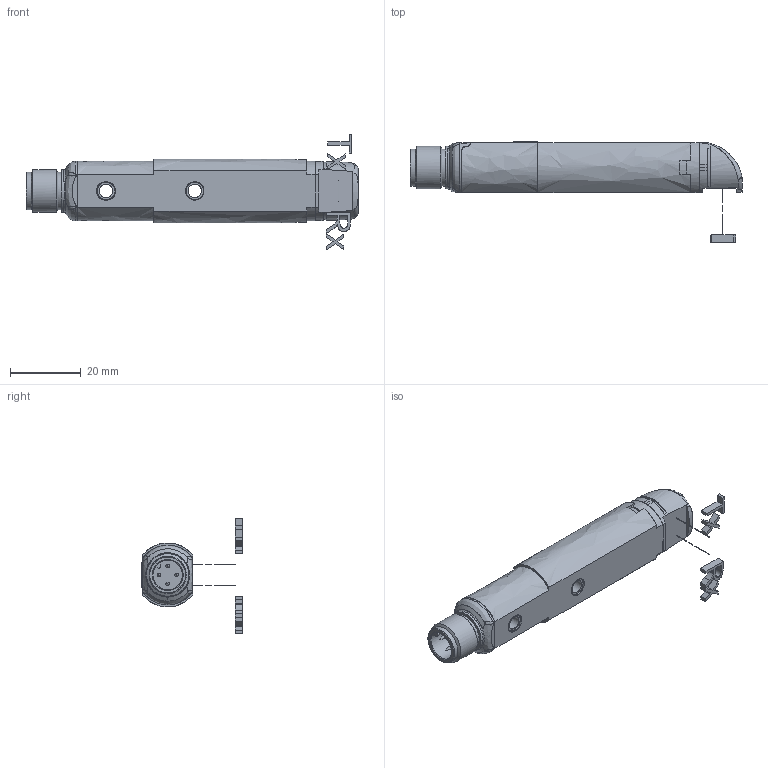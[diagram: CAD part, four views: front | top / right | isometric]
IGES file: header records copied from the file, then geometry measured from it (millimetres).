
Global section: file name: D:\TMP\DSD-0089.igs; preprocessor: I-DEAS 3D IGES Translator 11; date: 20060608.093849; units: millimetre
Bounding box: 93.55 x 28.3 x 32.67 mm (x, y, z)
Volume: 91.1 mm3; surface area: 6262.6 mm2
Topology: 8 solids, 8 shells, 275 faces, 1415 edges, 1289 vertices
Faces by surface type: bspline 275
